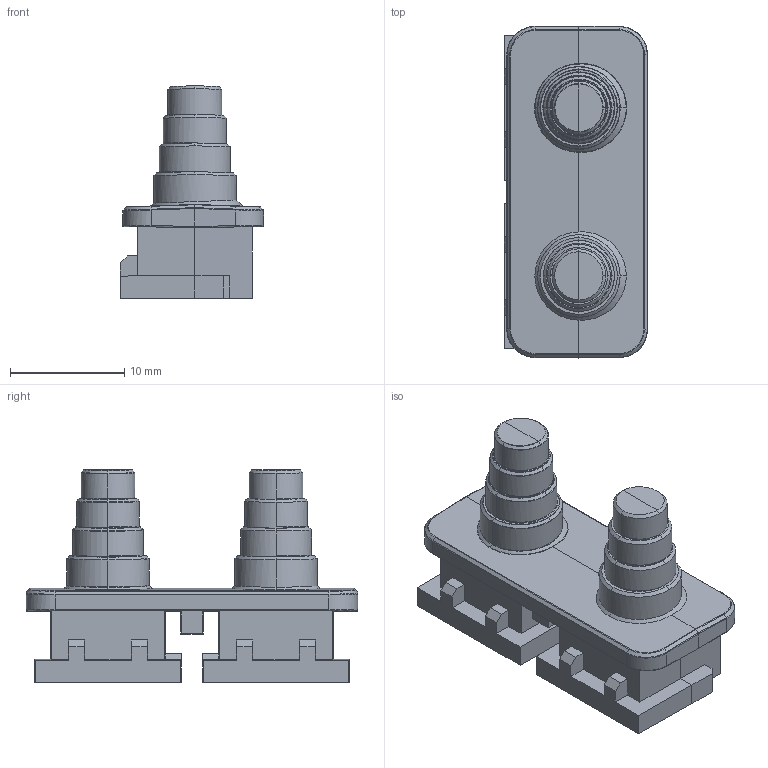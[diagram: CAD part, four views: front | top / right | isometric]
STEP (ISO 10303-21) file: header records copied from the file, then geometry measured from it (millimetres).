
FILE_DESCRIPTION((''),'2;1');
FILE_NAME('5555-0049_RR-DC-GROMMET','2017-03-29T',('owenrh01'),(''),'PRO/ENGINEER BY PARAMETRIC TECHNOLOGY CORPORATION, 2011490','PRO/ENGINEER BY PARAMETRIC TECHNOLOGY CORPORATION, 2011490','');
FILE_SCHEMA(('AUTOMOTIVE_DESIGN { 1 0 10303 214 1 1 1 1 }'));
Length unit declared in the file: millimetre
Products named in the file (1): 5555-0049_RR-DC-GROMMET
Bounding box: 12.5 x 29 x 18.57 mm (x, y, z)
Volume: 1576.9 mm3; surface area: 2558.1 mm2
Topology: 1 solids, 1 shells, 384 faces, 890 edges, 516 vertices
Faces by surface type: bspline 136, plane 126, cylinder 70, torus 28, cone 16, sphere 8
Entity records: 23718 total; most frequent: CARTESIAN_POINT 13106, ORIENTED_EDGE 1780, DIRECTION 1280, PRESENTATION_STYLE_ASSIGNMENT 891, STYLED_ITEM 891, CURVE_STYLE 890, EDGE_CURVE 890, VERTEX_POINT 516
